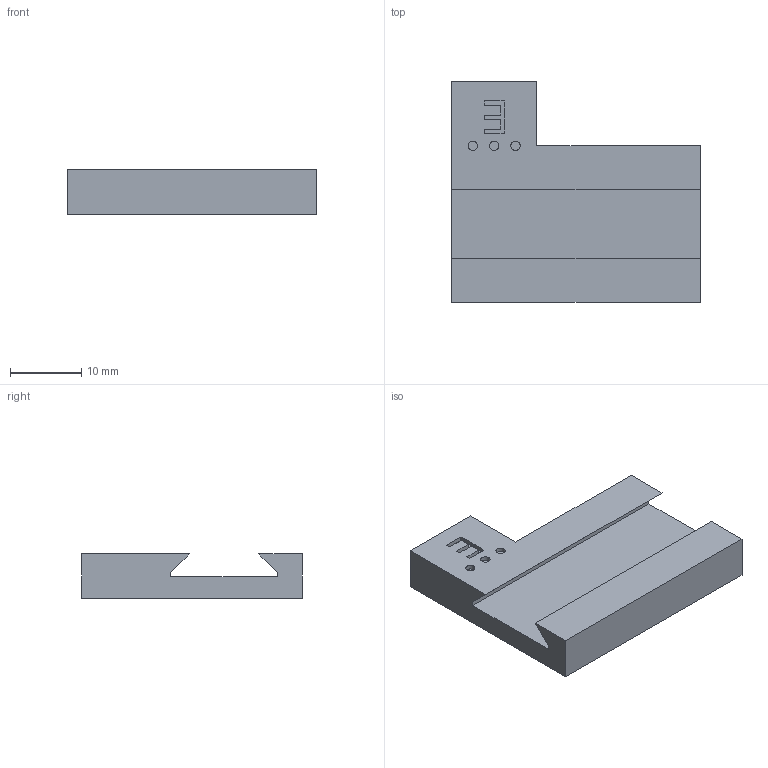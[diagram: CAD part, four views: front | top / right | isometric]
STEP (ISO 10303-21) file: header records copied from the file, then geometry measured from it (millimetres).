
FILE_DESCRIPTION(('Open CASCADE Model'),'2;1');
FILE_NAME('Open CASCADE Shape Model','2026-09-13T15:34:21',('Author'),( 'Open CASCADE'),'Open CASCADE STEP processor 7.9','build123d', 'Unknown');
FILE_SCHEMA(('AUTOMOTIVE_DESIGN { 1 0 10303 214 1 1 1 1 }'));
Length unit declared in the file: millimetre
Products named in the file (1): COMPOUND
Bounding box: 35 x 31 x 6.2 mm (x, y, z)
Volume: 3993.8 mm3; surface area: 2995.3 mm2
Topology: 1 solids, 1 shells, 41 faces, 105 edges, 70 vertices
Faces by surface type: plane 38, cylinder 3
Full cylindrical faces by diameter (mm): 1.3 x3
Entity records: 2546 total; most frequent: CARTESIAN_POINT 508, DIRECTION 339, LINE 240, VECTOR 240, ORIENTED_EDGE 210, PCURVE 210, DEFINITIONAL_REPRESENTATION 210, EDGE_CURVE 105
